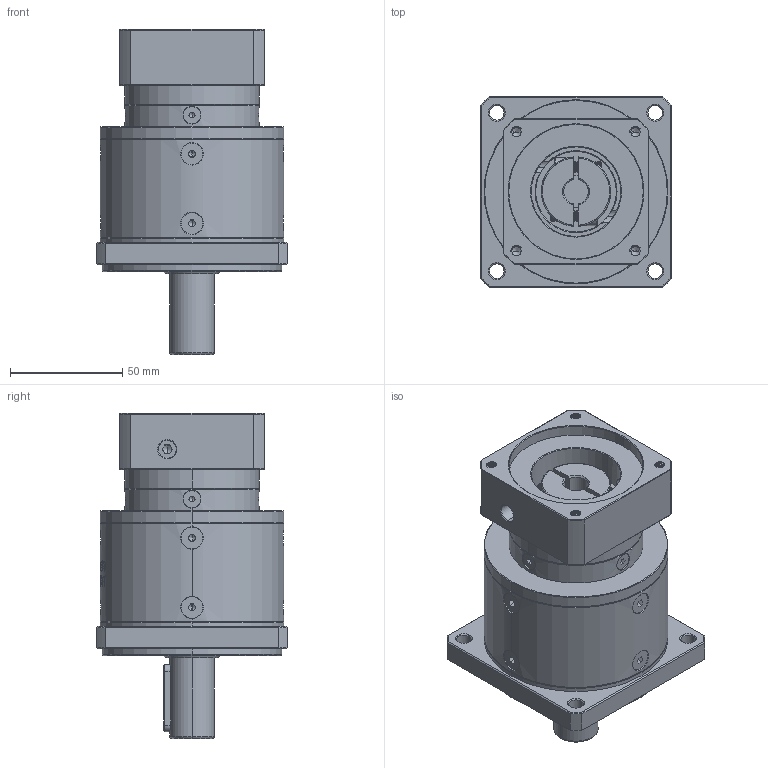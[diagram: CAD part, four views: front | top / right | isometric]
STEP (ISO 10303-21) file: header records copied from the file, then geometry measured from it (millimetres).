
FILE_DESCRIPTION (( 'STEP AP214' ), '1' );
FILE_NAME ('ZF080-D20-L2-P2-11-60-75-M5.step', '2023-08-19T06:52:41', ( '' ), ( '' ), 'SwSTEP 2.0', 'SolidWorks 2016', '' );
FILE_SCHEMA (( 'AUTOMOTIVE_DESIGN' ));
Length unit declared in the file: millimetre
Products named in the file (1): ZF080-D20-L2-P2-11-60-75-M5
Bounding box: 85 x 85 x 145 mm (x, y, z)
Volume: 482521.5 mm3; surface area: 70313.7 mm2
Topology: 18 solids, 18 shells, 2298 faces, 6052 edges, 3856 vertices
Faces by surface type: plane 1128, cylinder 407, bspline 394, cone 327, torus 42
Entity records: 122164 total; most frequent: CARTESIAN_POINT 45051, ORIENTED_EDGE 12028, DIRECTION 9049, EDGE_CURVE 6014, VERTEX_POINT 3856, LINE 3197, VECTOR 3197, AXIS2_PLACEMENT_3D 2926
